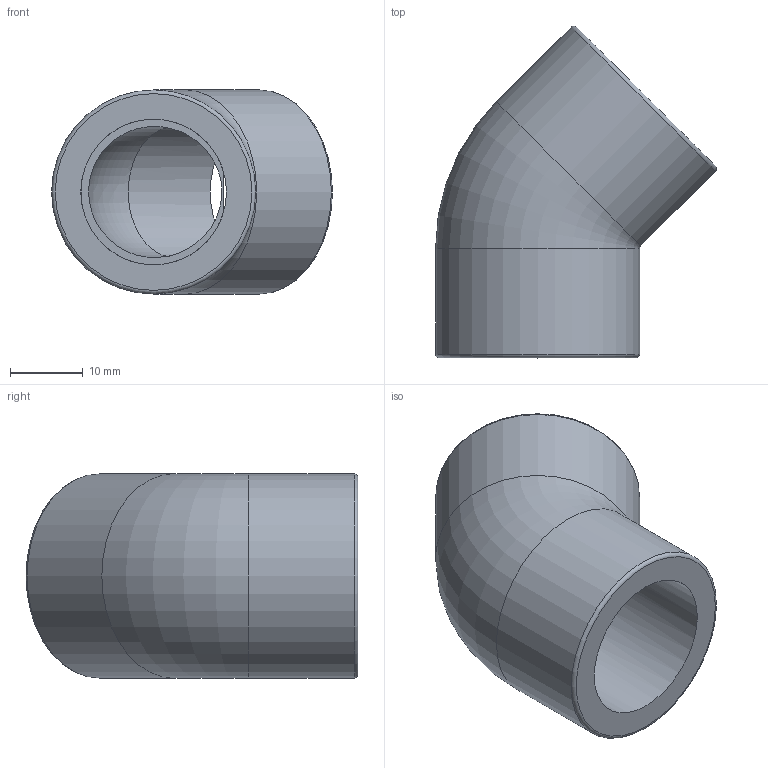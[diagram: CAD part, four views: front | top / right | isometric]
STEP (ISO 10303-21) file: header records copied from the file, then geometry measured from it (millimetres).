
FILE_DESCRIPTION(/* description */ ('PVC gomito a 45° incollaggio metrico'),/* implementation_level */ '2;1');
FILE_NAME(/* name */ 'C:\Users\POLYPIPE\Desktop\DATASET INVENTOR\LIBRERIA EFFAST\RACCORDI 3DxWEB\RDR\3D_RDRGYD\3D_RDRGYD0200.stp',/* time_stamp */ '2018-01-19T14:33:37+01:00',/* author */ ('POLYPIPE'),/* organization */ ('Polypipe Italia s.r.l.'),/* preprocessor_version */ 'ST-DEVELOPER v16.1',/* originating_system */ 'Autodesk Inventor 2016',/* authorisation */ '');
FILE_SCHEMA (('CONFIG_CONTROL_DESIGN'));
Length unit declared in the file: millimetre
Products named in the file (1): 3D_RDRGYD
Bounding box: 38.54 x 45.54 x 28 mm (x, y, z)
Volume: 12914.2 mm3; surface area: 6866.3 mm2
Topology: 1 solids, 1 shells, 12 faces, 24 edges, 14 vertices
Faces by surface type: torus 4, cylinder 4, plane 4
Full cylindrical faces by diameter (mm): 20 x2, 28 x2
Entity records: 411 total; most frequent: CARTESIAN_POINT 169, DIRECTION 49, ORIENTED_EDGE 28, EDGE_LOOP 24, AXIS2_PLACEMENT_3D 24, EDGE_CURVE 14, FACE_BOUND 12, FACE_OUTER_BOUND 12
